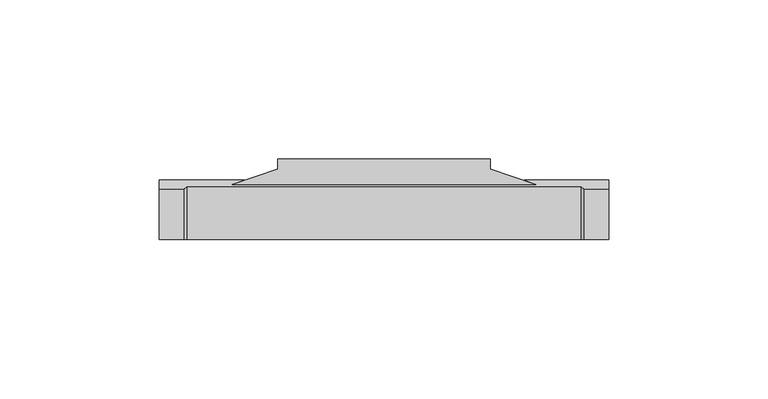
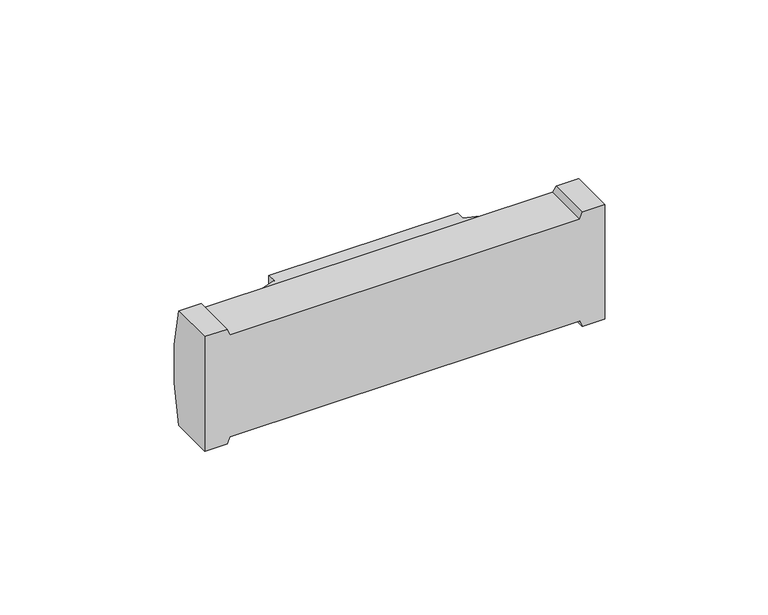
"""IFC4 building model written with IfcOpenShell, lengths in millimetres: proxy geometry, BYRNE 4 TRAC-2 POWER."""

from ifc_helpers import new_model, si_unit, frame, origin, place, context, project, spatial, circle_curve, ellipse_curve, source, transform, mapped, element, save
from ifc_brep_helpers import plane_surface, cylinder_surface, advanced_brep


def generic_models_e8d2fbf6(model_context):
    return source(origin(), model_context, "Body", "AdvancedBrep", [
        advanced_brep(
        [(0.0, 15.875, 0.0), (0.0, 15.875, -42.8625), (0.0, 0.0, -42.8625), (0.0, 0.0, 0.0), (141.2875, 0.0, 0.0), (141.2875, 0.0, -42.8625), (141.2875, 15.875, -42.8625), (141.2875, 15.875, 0.0), (8.73125, 0.0, -40.48125), (8.73125, 16.5530618, -40.48125), (132.55625, 16.5530618, -40.48125), (132.55625, 0.0, -40.48125), (7.9375, 0.0, -42.8625), (7.9375, 15.875, -42.8625), (7.9375, 15.875, 0.0), (8.73125, 16.5530618, -2.38125), (132.55625, 16.5530618, -2.38125), (133.35, 15.875, 0.0), (133.35, 15.875, -42.8625), (118.3386, 17.3251783, -5.55625), (23.01875, 17.3251783, -5.55625), (23.01875, 17.3251783, -37.30625), (118.3386, 17.3251783, -37.30625), (133.35, 0.0, -42.8625), (133.35, 0.0, 0.0), (132.55625, 0.0, -2.38125), (8.73125, 0.0, -2.38125), (7.9375, 0.0, 0.0), (37.30625, 22.225, -37.30625), (37.30625, 22.225, -5.55625), (37.30625, 25.4, -5.55625), (37.30625, 25.4, -37.30625), (103.98125, 22.225, -5.55625), (103.98125, 25.4, -5.55625), (103.98125, 25.4, -37.30625), (103.98125, 22.225, -37.30625)],
        [
            (0, 1, circle_curve(frame((0.0, -54.8679687, -21.43125), z_axis=(-1.0, 0.0, 0.0), x_axis=(0.0, 0.0, 1.0)), 73.9179687)),
            (1, 2),
            (2, 3),
            (3, 0),
            (4, 5),
            (5, 6),
            (6, 7, circle_curve(frame((141.2875, -54.8679687, -21.43125), z_axis=(1.0, 0.0, 0.0), x_axis=(0.0, 0.0, 1.0)), 73.9179687)),
            (7, 4),
            (8, 9),
            (9, 10),
            (10, 11),
            (11, 8),
            (8, 12),
            (12, 13),
            (13, 9, ellipse_curve(frame((15.08125, -54.8679687, -21.43125), z_axis=(0.9486832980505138, 0.0, -0.31622776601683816), x_axis=(-0.31622776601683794, 0.0, -0.9486832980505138)), 77.9163804, 73.9179687)),
            (13, 1),
            (0, 14),
            (14, 15, ellipse_curve(frame((15.08125, -54.8679687, -21.43125), z_axis=(-0.9486832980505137, 0.0, -0.3162277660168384), x_axis=(-0.31622776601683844, 0.0, 0.9486832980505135)), 77.9163804, 73.9179687)),
            (15, 16),
            (16, 17, ellipse_curve(frame((126.20625, -54.8679687, -21.43125), z_axis=(0.948683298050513, 0.0, -0.31622776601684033), x_axis=(-0.3162277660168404, 0.0, -0.9486832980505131)), 77.9163804, 73.9179687)),
            (17, 7),
            (6, 18),
            (18, 10, ellipse_curve(frame((126.20625, -54.8679687, -21.43125), z_axis=(0.9486832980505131, 0.0, 0.3162277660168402), x_axis=(-0.31622776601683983, 0.0, 0.9486832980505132)), 77.9163804, 73.9179687)),
            (19, 20),
            (20, 21, ellipse_curve(frame((-187.4908662, -54.8679687, -21.43125), z_axis=(-0.3243983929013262, 0.945920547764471, 0.0), x_axis=(-0.9459205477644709, -0.3243983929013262, 0.0)), 227.8616984, 73.9179687)),
            (21, 22),
            (22, 19, ellipse_curve(frame((329.8773743, -54.8679687, -21.43125), z_axis=(0.3229851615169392, 0.9464040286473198, 0.0), x_axis=(-0.9464040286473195, 0.3229851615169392, 0.0)), 228.8587141, 73.9179687)),
            (18, 23),
            (23, 11),
            (23, 5),
            (4, 24),
            (24, 25),
            (25, 26),
            (26, 27),
            (27, 3),
            (2, 12),
            (26, 15),
            (14, 27),
            (16, 25),
            (24, 17),
            (28, 29),
            (29, 30),
            (30, 31),
            (31, 28),
            (20, 29),
            (28, 21),
            (19, 32),
            (32, 33),
            (33, 30),
            (33, 34),
            (34, 31),
            (22, 35),
            (35, 32),
            (35, 34),
        ],
        [
            plane_surface(frame((0.0, 9.525, -21.43125), z_axis=(-1.0, 0.0, 0.0), x_axis=(0.0, 0.0, -1.0))),
            plane_surface(frame((141.2875, 9.525, -21.43125), z_axis=(1.0, 0.0, 0.0), x_axis=(0.0, 0.0, -1.0))),
            plane_surface(frame((22.225, 0.0, -40.48125), z_axis=(0.0, 0.0, -1.0), x_axis=(1.0, 0.0, 0.0))),
            plane_surface(frame((7.9375, 0.0, -42.8625), z_axis=(0.9486832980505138, 0.0, -0.31622776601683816), x_axis=(0.31622776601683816, 0.0, 0.9486832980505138))),
            cylinder_surface(frame((141.2875, -54.8679687, -21.43125), z_axis=(-1.0, 0.0, 0.0), x_axis=(0.0, 0.0, 1.0)), 73.9179687),
            plane_surface(frame((131.7625, 0.0, -38.1), z_axis=(-0.9486832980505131, 0.0, -0.3162277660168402), x_axis=(0.3162277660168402, 0.0, -0.9486832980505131))),
            plane_surface(frame((0.0, 0.0, 0.0), z_axis=(0.0, -1.0, 0.0), x_axis=(0.0, 0.0, -1.0))),
            plane_surface(frame((9.525, 0.0, -4.7625), z_axis=(0.9486832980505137, 0.0, 0.3162277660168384), x_axis=(-0.3162277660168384, 0.0, 0.9486832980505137))),
            plane_surface(frame((133.35, 0.0, 0.0), z_axis=(-0.948683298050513, 0.0, 0.31622776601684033), x_axis=(-0.31622776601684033, 0.0, -0.948683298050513))),
            plane_surface(frame((119.0625, 0.0, -2.38125), z_axis=(0.0, 0.0, 1.0), x_axis=(-1.0, 0.0, 0.0))),
            plane_surface(frame((37.30625, 25.4, -5.55625), z_axis=(-1.0, 0.0, 0.0), x_axis=(0.0, 0.0, -1.0))),
            plane_surface(frame((37.30625, 22.225, -5.55625), z_axis=(-0.3243983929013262, 0.945920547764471, 0.0), x_axis=(-0.945920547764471, -0.3243983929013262, 0.0))),
            plane_surface(frame((37.30625, 22.225, -5.55625), z_axis=(0.0, 0.0, 1.0), x_axis=(-1.0, 0.0, 0.0))),
            plane_surface(frame((70.64375, 25.4, -21.43125), z_axis=(0.0, 1.0, 0.0), x_axis=(0.0, 0.0, -1.0))),
            plane_surface(frame((118.3386, 17.3251783, -5.55625), z_axis=(0.3229851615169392, 0.9464040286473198, 0.0), x_axis=(-0.9464040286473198, 0.3229851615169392, 0.0))),
            plane_surface(frame((103.98125, 25.4, -37.30625), z_axis=(1.0, 0.0, 0.0), x_axis=(0.0, 0.0, 1.0))),
            plane_surface(frame((23.01875, 22.225, -37.30625), z_axis=(0.0, 0.0, -1.0), x_axis=(1.0, 0.0, 0.0))),
            plane_surface(frame((0.0, 0.0, -42.8625), z_axis=(0.0, 0.0, -1.0), x_axis=(0.0, 1.0, 0.0))),
            plane_surface(frame((0.0, 19.05, 0.0), z_axis=(0.0, 0.0, 1.0), x_axis=(0.0, -1.0, 0.0))),
        ],
        [
            (0, [[1, 2, 3, 4]]),
            (1, [[5, 6, 7, 8]]),
            (2, [[9, 10, 11, 12]]),
            (3, [[-9, 13, 14, 15]]),
            (4, [[-10, -15, 16, -1, 17, 18, 19, 20, 21, -7, 22, 23], [24, 25, 26, 27]]),
            (5, [[-11, -23, 28, 29]]),
            (6, [[-12, -29, 30, -5, 31, 32, 33, 34, 35, -3, 36, -13]]),
            (7, [[37, -18, 38, -34]]),
            (8, [[39, -32, 40, -20]]),
            (9, [[-39, -19, -37, -33]]),
            (10, [[41, 42, 43, 44]]),
            (11, [[-25, 45, -41, 46]]),
            (12, [[-45, -24, 47, 48, 49, -42]]),
            (13, [[-43, -49, 50, 51]]),
            (14, [[-27, 52, 53, -47]]),
            (15, [[-53, 54, -50, -48]]),
            (16, [[-52, -26, -46, -44, -51, -54]]),
            (17, [[-14, -36, -2, -16]]),
            (18, [[-40, -31, -8, -21]]),
            (18, [[-38, -17, -4, -35]]),
            (17, [[-28, -22, -6, -30]]),
        ],
    ),
    ])


if __name__ == "__main__":
    model = new_model("IFC4")
    model_context = context("Model", 3, world=origin())
    ifc_project = project(units=[si_unit("LENGTHUNIT", "METRE", prefix="MILLI")], contexts=[model_context])
    site = spatial("IfcSite", under=ifc_project)
    building = spatial("IfcBuilding", under=site)
    placement = place(None, origin())
    generic_models_shape = generic_models_e8d2fbf6(model_context)
    element("IfcBuildingElementProxy", 1, Name="BYRNE 4 TRAC-2 POWER", ObjectType="BYRNE 4 TRAC-2 POWER", at=placement, inside=building, context=model_context, shape_type="MappedRepresentation", body=[
        mapped(generic_models_shape, transform((0.0, 0.0, 0.0), x_axis=(1.0, 0.0, 0.0), y_axis=(0.0, 1.0, 0.0), z_axis=(0.0, 0.0, 1.0))),
    ])
    save(model, "model.ifc")
